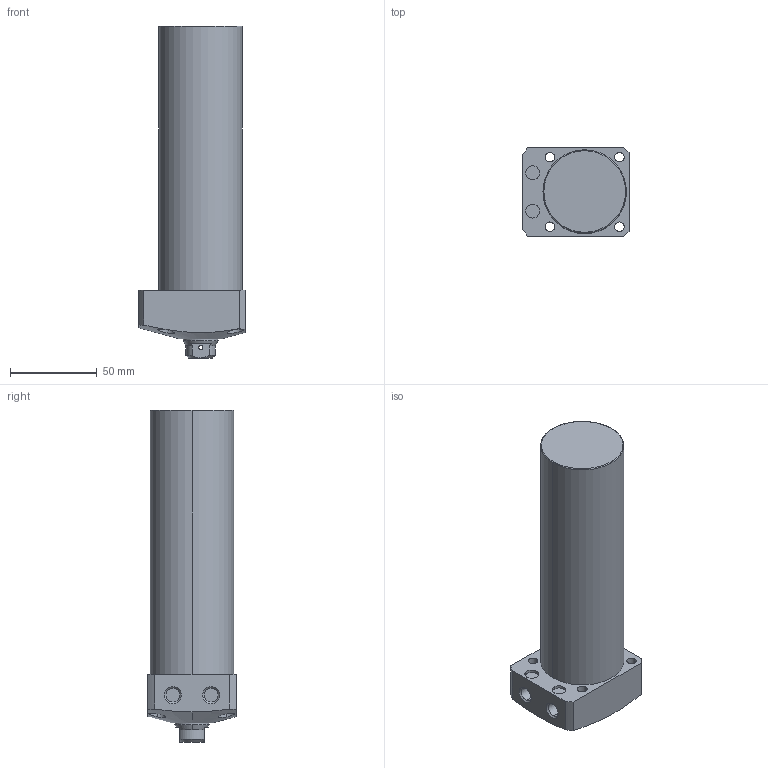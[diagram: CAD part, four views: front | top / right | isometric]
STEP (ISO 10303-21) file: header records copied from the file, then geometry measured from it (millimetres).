
FILE_DESCRIPTION (( 'STEP AP203' ), '1' );
FILE_NAME ('CLL-048CB-125.STEP', '2019-12-21T07:44:34', ( '' ), ( '' ), 'SwSTEP 2.0', 'SolidWorks 2015', '' );
FILE_SCHEMA (( 'CONFIG_CONTROL_DESIGN' ));
Length unit declared in the file: millimetre
Products named in the file (1): CLL-048CB-125
Bounding box: 61 x 51 x 191 mm (x, y, z)
Volume: 349217.2 mm3; surface area: 37736.1 mm2
Topology: 1 solids, 1 shells, 78 faces, 182 edges, 115 vertices
Faces by surface type: cylinder 39, plane 22, cone 15, torus 2
Entity records: 2751 total; most frequent: CARTESIAN_POINT 852, DIRECTION 394, ORIENTED_EDGE 360, EDGE_CURVE 180, AXIS2_PLACEMENT_3D 163, VERTEX_POINT 115, EDGE_LOOP 101, CIRCLE 84
